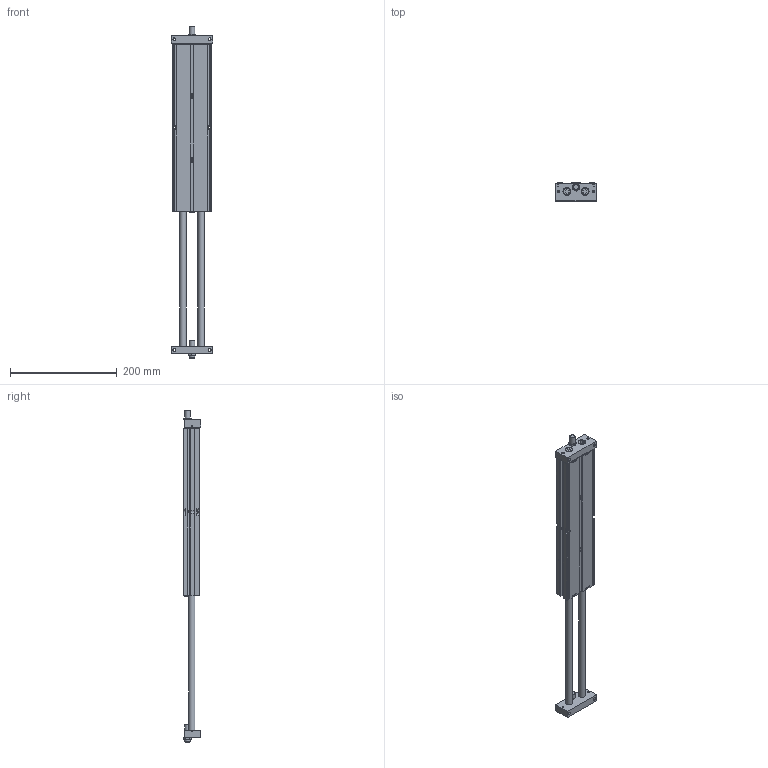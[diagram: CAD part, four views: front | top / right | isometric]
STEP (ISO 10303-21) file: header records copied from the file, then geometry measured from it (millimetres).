
FILE_DESCRIPTION((''),'2;1');
FILE_NAME('I:\3D電子目錄\氣缸\STU\STU\STU25\STU25x250.stp','2007-10-01T11:46:13',('Administrator'),(''),'Autodesk Inventor 11','Autodesk Inventor 11','');
FILE_SCHEMA(('AUTOMOTIVE_DESIGN { 1 0 10303 214 1 1 1 1 }'));
Length unit declared in the file: millimetre
Products named in the file (1): STU25
Bounding box: 77 x 33 x 622 mm (x, y, z)
Volume: 768432.5 mm3; surface area: 133435.8 mm2
Topology: 1 solids, 1 shells, 350 faces, 884 edges, 559 vertices
Faces by surface type: plane 163, cone 81, bspline 58, cylinder 44, torus 4
Full cylindrical faces by diameter (mm): 2.459 x2, 8 x2, 10 x4, 12 x2, 13 x4, 14 x4, 28 x2, 29.6 x2
Entity records: 11240 total; most frequent: CARTESIAN_POINT 3736, ORIENTED_EDGE 1484, DIRECTION 1462, EDGE_CURVE 742, AXIS2_PLACEMENT_3D 555, EDGE_LOOP 530, VERTEX_POINT 522, VECTOR 352
